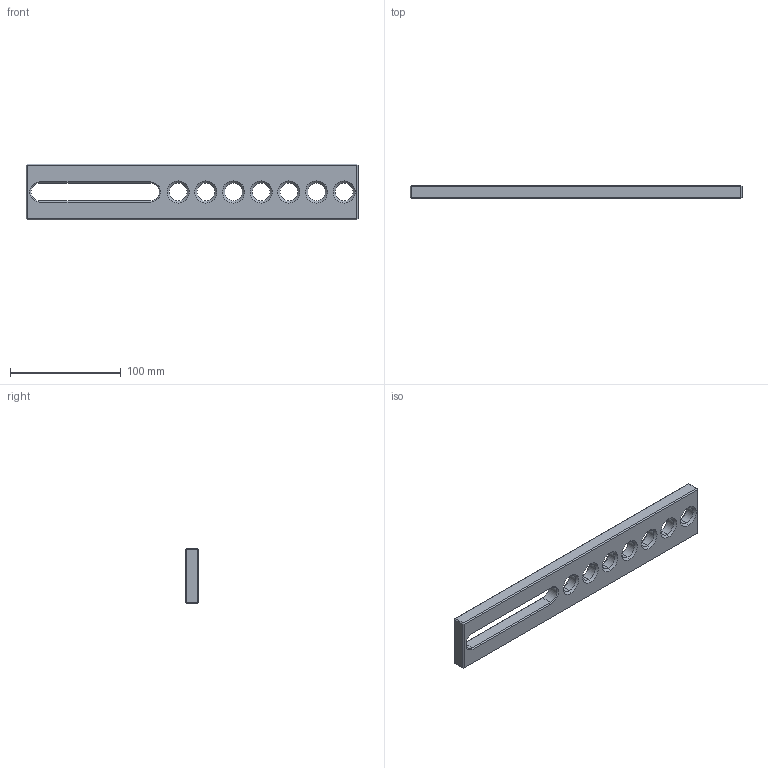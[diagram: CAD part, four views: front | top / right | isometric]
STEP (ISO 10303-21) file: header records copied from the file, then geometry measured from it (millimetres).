
FILE_DESCRIPTION (( 'STEP AP203' ), '1' );
FILE_NAME ('160425_M300.step', '2014-08-11T15:59:42', ( 'User' ), ( '' ), 'SwSTEP 2.0', 'SolidWorks 2014', '' );
FILE_SCHEMA (( 'CONFIG_CONTROL_DESIGN' ));
Length unit declared in the file: millimetre
Products named in the file (1): 160425_M300
Bounding box: 300 x 12 x 50 mm (x, y, z)
Volume: 138631.2 mm3; surface area: 37279.4 mm2
Topology: 1 solids, 1 shells, 80 faces, 174 edges, 96 vertices
Faces by surface type: cone 32, plane 32, cylinder 16
Entity records: 2231 total; most frequent: DIRECTION 400, CARTESIAN_POINT 351, ORIENTED_EDGE 348, EDGE_CURVE 174, AXIS2_PLACEMENT_3D 145, VECTOR 110, LINE 110, VERTEX_POINT 96
